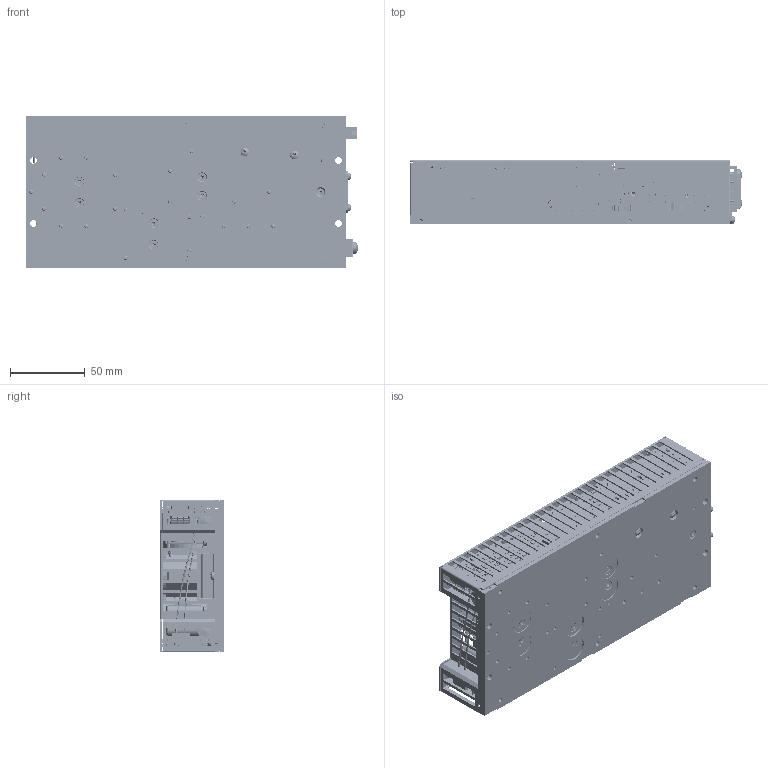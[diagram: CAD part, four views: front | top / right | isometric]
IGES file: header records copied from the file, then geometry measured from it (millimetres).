
Start section: SolidWorks IGES file using analytic representation for surfaces
Global section: file name: H:\Martin Beeson\Solidworks\CCHXXXPSXX IGES.IGS; native system: SolidWorks 2011; preprocessor: SolidWorks 2011; author: mbeeson; date: 110617.114732; units: millimetre
Bounding box: 221.99 x 43.3 x 102 mm (x, y, z)
Surface area: 395576.9 mm2 (no closed solid volume)
Topology: 0 solids, 0 shells, 13110 faces, 111255 edges, 111169 vertices
Faces by surface type: bspline 8913, revolution 4197
